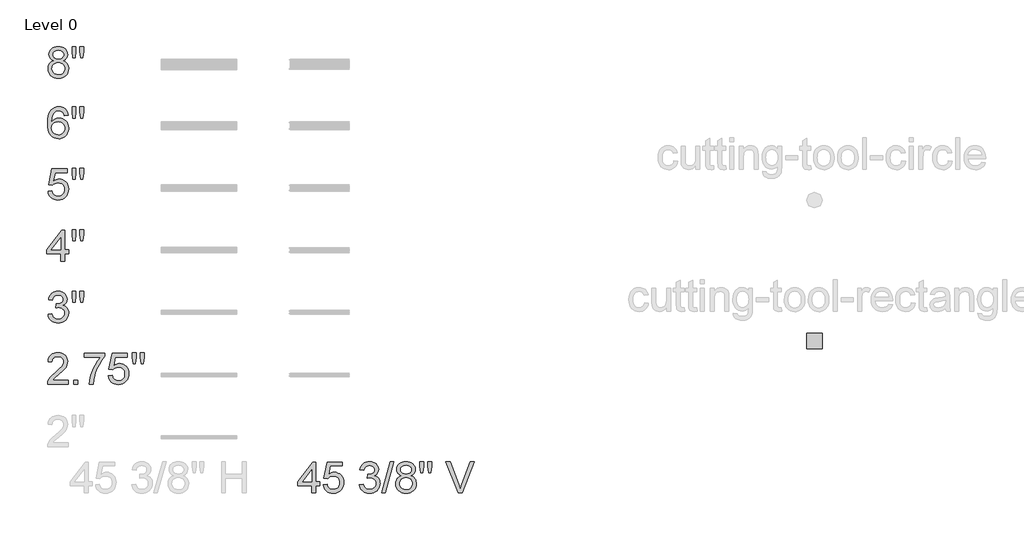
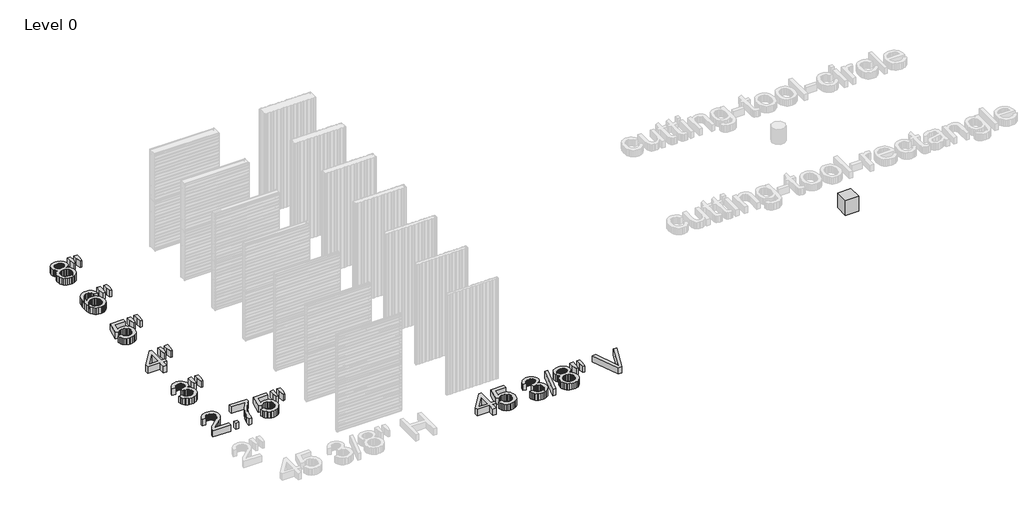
# One storey, part 2 of 4: 8 proxies.
"""IFC4 building model written with IfcOpenShell, lengths in millimetres."""

from ifc_helpers import new_model, si_unit, origin, origin_with_axes, place, context, project, spatial, polyline, outline, extrude, transform, mapped, element, save
from components import kingspan_ks_cutting_tool_rectangle_cutting_tool_rectangle_f435e5aa

model = new_model("IFC4")

# Units and contexts
model_context = context("Model", 3, world=origin())
ifc_project = project(units=[si_unit("LENGTHUNIT", "METRE", prefix="MILLI")], contexts=[model_context])

# Site, building, storey
site = spatial("IfcSite", under=ifc_project)
building = spatial("IfcBuilding", under=site)
storey = spatial("IfcBuildingStorey", under=building, Name="Level 0", Elevation=0.0)

# Proxies
placement = place(None, origin())
element("IfcBuildingElementProxy", 1, Name="24\" Arial", ObjectType="24\" Arial", at=placement, inside=storey, context=model_context, shape_type="SweptSolid", body=[
    extrude(outline(polyline([(-10988.6802578, 8306.6494842), (-10988.6802578, 8230.5077107), (-11388.4245688, 8230.5077107), (-11386.7515317, 8257.3134815), (-11380.2452767, 8283.0038944), (-11361.4700835, 8324.0304798), (-11333.9950978, 8363.8301715), (-11294.2511741, 8405.4887932), (-11238.6691665, 8452.0921687), (-11156.5044598, 8525.0737612), (-11107.2056357, 8578.9455531), (-11092.826812, 8600.9552845), (-11082.5562237, 8622.6675872), (-11076.3938707, 8644.082461), (-11074.339753, 8665.199906), (-11076.2776875, 8685.0672205), (-11082.0914912, 8703.3265606), (-11091.7811639, 8719.9779262), (-11105.3467057, 8735.0213174), (-11122.0352499, 8747.4807959), (-11141.0939299, 8756.3804233), (-11162.5227457, 8761.7201998), (-11186.3216973, 8763.5001253), (-11211.3940159, 8761.7620257), (-11233.8173592, 8756.547727), (-11253.5917273, 8747.8572292), (-11270.7171201, 8735.6905322), (-11284.570796, 8720.4566007), (-11294.5300136, 8702.5643993), (-11300.5947728, 8682.013928), (-11302.7650736, 8658.8051867), (-11378.9068471, 8668.3229084), (-11372.3587661, 8707.6299836), (-11360.447672, 8741.9737157), (-11343.1735648, 8771.3541046), (-11320.5364445, 8795.7711504), (-11293.0568115, 8814.9646028), (-11261.2551663, 8828.6742117), (-11225.1315087, 8836.899977), (-11184.6858388, 8839.6418988), (-11143.8776776, 8836.5932536), (-11107.5588324, 8827.4473179), (-11075.7293032, 8812.2040917), (-11048.38909, 8790.8635751), (-11026.4304791, 8765.0058586), (-11010.7457571, 8736.2110326), (-11001.3349239, 8704.4790972), (-10998.1979795, 8669.8100524), (-11001.5812321, 8633.3936134), (-11011.73099, 8597.6092105), (-11029.7440219, 8561.2113608), (-11056.7170964, 8522.954581), (-11099.7141477, 8477.2806705), (-11165.7991099, 8418.6314284), (-11253.3918923, 8345.3895857), (-11287.744919, 8306.6494842), (-10988.6802578, 8306.6494842)])), origin_with_axes(), (0.0, 0.0, 1.0), 152.4),
    extrude(outline(polyline([(-10874.4675975, 8230.5077107), (-10874.4675975, 8306.6494842), (-10798.325824, 8306.6494842), (-10798.325824, 8230.5077107), (-10874.4675975, 8230.5077107)])), origin_with_axes(), (0.0, 0.0, 1.0), 152.4),
    extrude(outline(polyline([(-10674.595442, 8753.9824036), (-10674.595442, 8830.1241771), (-10274.8511311, 8830.1241771), (-10274.8511311, 8768.5564149), (-10331.8273361, 8696.4485195), (-10388.2458621, 8604.7475018), (-10414.7216729, 8553.6408683), (-10438.0094187, 8501.8185467), (-10458.1090995, 8449.2805371), (-10475.0207154, 8396.0268394), (-10493.1638723, 8316.8735993), (-10503.2764516, 8230.5077107), (-10579.4182251, 8230.5077107), (-10571.1831652, 8308.991736), (-10549.1548445, 8402.2728443), (-10533.1169257, 8452.1618786), (-10513.9281206, 8501.1493319), (-10491.5884291, 8549.2352041), (-10466.0978513, 8596.4194953), (-10410.2555935, 8682.543723), (-10350.9929046, 8753.9824036), (-10674.595442, 8753.9824036)])), origin_with_axes(), (0.0, 0.0, 1.0), 152.4),
    extrude(outline(polyline([(-10208.2270792, 8392.3089794), (-10132.0853057, 8401.8267011), (-10126.3969799, 8377.3492401), (-10118.106152, 8356.1156119), (-10107.2128221, 8338.1258167), (-10093.7169902, 8323.3798543), (-10077.6465402, 8311.8963142), (-10059.029356, 8303.6937854), (-10037.8654378, 8298.7722682), (-10014.1547854, 8297.1317625), (-9985.1554771, 8299.4135991), (-9959.5766001, 8306.2591089), (-9937.4181543, 8317.6682919), (-9918.6801397, 8333.641148), (-9903.7808156, 8353.3876321), (-9893.1384413, 8376.1176989), (-9886.7530167, 8401.8313484), (-9884.6245418, 8430.5285805), (-9886.6182442, 8457.6503695), (-9892.5993516, 8481.7606918), (-9902.5678638, 8502.8595475), (-9916.5237809, 8520.9469366), (-9934.5135761, 8535.4558854), (-9956.5837228, 8545.8194202), (-9982.7342208, 8552.0375411), (-10012.9650702, 8554.1102481), (-10049.9020097, 8550.8013527), (-10079.8121936, 8540.8746664), (-10103.6994444, 8525.6686188), (-10122.567584, 8506.5216397), (-10198.7093576, 8516.0393613), (-10132.0853057, 8830.1241771), (-9837.0359333, 8830.1241771), (-9837.0359333, 8753.9824036), (-10070.5175435, 8753.9824036), (-10103.0859975, 8586.2325588), (-10076.2151641, 8605.4910738), (-10048.6937051, 8619.2471559), (-10020.5216207, 8627.5008052), (-9991.6989108, 8630.2520216), (-9954.6179043, 8626.840885), (-9920.557659, 8616.6074753), (-9889.5181751, 8599.5517924), (-9861.4994524, 8575.6738363), (-9838.3046531, 8546.4328671), (-9821.7369393, 8513.2881449), (-9811.796311, 8476.2396697), (-9808.4827683, 8435.2874414), (-9811.466351, 8395.8409464), (-9820.417099, 8359.1456679), (-9835.3350124, 8325.2016058), (-9856.2200911, 8294.0087601), (-9887.85908, 8262.0630477), (-9924.7774302, 8239.2446817), (-9966.9751416, 8225.5536622), (-10014.4522142, 8220.989989), (-10053.7453475, 8223.9224511), (-10089.2369688, 8232.7198374), (-10120.9270783, 8247.3821479), (-10148.8156759, 8267.9093826), (-10172.0197698, 8293.27913), (-10189.6563684, 8322.4689786), (-10201.7254715, 8355.4789284), (-10208.2270792, 8392.3089794)])), origin_with_axes(), (0.0, 0.0, 1.0), 152.4),
    extrude(outline(polyline([(-9723.2694163, 8620.7342999), (-9741.8587165, 8738.3673914), (-9741.8587165, 8839.6418988), (-9665.7169429, 8839.6418988), (-9665.7169429, 8738.3673914), (-9682.3729559, 8620.7342999), (-9723.2694163, 8620.7342999)])), origin_with_axes(), (0.0, 0.0, 1.0), 152.4),
    extrude(outline(polyline([(-9571.4320124, 8620.7342999), (-9589.5751694, 8738.3673914), (-9589.5751694, 8839.6418988), (-9513.4333959, 8839.6418988), (-9513.4333959, 8738.3673914), (-9531.2791241, 8620.7342999), (-9571.4320124, 8620.7342999)])), origin_with_axes(), (0.0, 0.0, 1.0), 152.4),
])
element("IfcBuildingElementProxy", 2, Name="24\" Arial", ObjectType="24\" Arial", at=placement, inside=storey, context=model_context, shape_type="SweptSolid", body=[
    extrude(outline(polyline([(-11378.9068471, 9586.1089794), (-11302.7650736, 9595.6267011), (-11285.7186853, 9547.7778424), (-11274.2258505, 9529.6811587), (-11260.7532552, 9515.4696387), (-11244.9941759, 9504.7343179), (-11226.6418893, 9497.0662315), (-11205.6963954, 9492.4653798), (-11182.157694, 9490.9317625), (-11154.5711726, 9493.0416481), (-11129.9589391, 9499.3713048), (-11108.3209937, 9509.9207326), (-11089.6573363, 9524.6899316), (-11074.6278872, 9542.5728384), (-11063.8925663, 9562.4633896), (-11057.4513738, 9584.3615852), (-11055.3043096, 9608.2674252), (-11057.4327845, 9631.0346706), (-11063.8182091, 9651.7477983), (-11074.4605835, 9670.4068084), (-11089.3599075, 9687.0117007), (-11107.5402431, 9700.6423051), (-11128.0256519, 9710.3784511), (-11150.8161339, 9716.2201386), (-11175.9116892, 9718.1673678), (-11199.9662436, 9716.0853662), (-11229.3001593, 9709.8393613), (-11220.8234384, 9785.9811349), (-11208.6288575, 9785.0888485), (-11163.0107148, 9790.5541027), (-11122.2257903, 9806.9498655), (-11105.4396522, 9819.3489287), (-11093.4495536, 9834.6851013), (-11086.2554944, 9852.9583834), (-11083.8574747, 9874.1687749), (-11085.5955743, 9891.3871142), (-11090.809873, 9907.0532469), (-11099.5003708, 9921.1671731), (-11111.6670678, 9933.7288927), (-11126.5756865, 9944.0413069), (-11143.4919497, 9951.4073171), (-11162.4158572, 9955.8269232), (-11183.3474092, 9957.3001253), (-11204.2231933, 9955.8129813), (-11223.277226, 9951.3515492), (-11240.5095073, 9943.9158292), (-11255.9200371, 9933.5058211), (-11269.1277349, 9920.1215249), (-11279.7515199, 9903.7629408), (-11287.7913923, 9884.4300686), (-11293.2473519, 9862.1229084), (-11369.3891254, 9871.6406301), (-11360.3640201, 9907.9920066), (-11346.9704294, 9940.0120761), (-11329.2083531, 9967.7008387), (-11307.0777912, 9991.0582944), (-11281.2758426, 10009.6011213), (-11252.4996059, 10022.8459977), (-11220.7490812, 10030.7929235), (-11186.0242685, 10033.4418988), (-11138.1568205, 10028.2183054), (-11094.1931256, 10012.5475254), (-11057.126061, 9987.8237562), (-11029.9485042, 9955.4411953), (-11013.2739019, 9918.1324698), (-11007.7157012, 9878.6302069), (-11012.9950624, 9841.8233926), (-11028.8331462, 9808.4370095), (-11055.0068808, 9779.9953802), (-11091.2931948, 9758.0228274), (-11065.9188, 9750.0851962), (-11043.6302291, 9738.7643124), (-11024.427482, 9724.060176), (-11008.3105588, 9705.9727869), (-10995.5582989, 9684.9482884), (-10986.4495418, 9661.4328237), (-10980.9842875, 9635.4263927), (-10979.1625361, 9606.9289956), (-10982.8060389, 9568.3004298), (-10993.7365474, 9532.7205093), (-11011.9540616, 9500.189234), (-11037.4585815, 9470.7066039), (-11068.5305967, 9446.2430849), (-11103.4505971, 9428.7691427), (-11142.2185826, 9418.2847774), (-11184.8345532, 9414.789989), (-11223.3515832, 9417.7735716), (-11258.4481819, 9426.7243197), (-11290.1243494, 9441.6422331), (-11318.3800857, 9462.5273118), (-11342.0721488, 9488.1526621), (-11360.0572967, 9517.2913901), (-11372.3355295, 9549.9434959), (-11378.9068471, 9586.1089794)])), origin_with_axes(), (0.0, 0.0, 1.0), 152.4),
    extrude(outline(polyline([(-10893.9491841, 9814.5342999), (-10912.5384843, 9932.1673914), (-10912.5384843, 10033.4418988), (-10836.3967108, 10033.4418988), (-10836.3967108, 9932.1673914), (-10853.0527237, 9814.5342999), (-10893.9491841, 9814.5342999)])), origin_with_axes(), (0.0, 0.0, 1.0), 152.4),
    extrude(outline(polyline([(-10742.1117803, 9814.5342999), (-10760.2549372, 9932.1673914), (-10760.2549372, 10033.4418988), (-10684.1131637, 10033.4418988), (-10684.1131637, 9932.1673914), (-10701.9588919, 9814.5342999), (-10742.1117803, 9814.5342999)])), origin_with_axes(), (0.0, 0.0, 1.0), 152.4),
])
element("IfcBuildingElementProxy", 3, Name="24\" Arial", ObjectType="24\" Arial", at=placement, inside=storey, context=model_context, shape_type="SweptSolid", body=[
    extrude(outline(polyline([(-11131.4460831, 10618.1077107), (-11131.4460831, 10760.873536), (-11407.4600121, 10760.873536), (-11407.4600121, 10837.0153095), (-11112.4106398, 11217.7241771), (-11055.3043096, 11217.7241771), (-11055.3043096, 10837.0153095), (-10979.1625361, 10837.0153095), (-10979.1625361, 10760.873536), (-11055.3043096, 10760.873536), (-11055.3043096, 10618.1077107), (-11131.4460831, 10618.1077107)]), holes=[polyline([(-11131.4460831, 10837.0153095), (-11131.4460831, 11072.2814925), (-11313.7699393, 10837.0153095), (-11131.4460831, 10837.0153095)])]), origin_with_axes(), (0.0, 0.0, 1.0), 152.4),
    extrude(outline(polyline([(-10893.9491841, 11008.3342999), (-10912.5384843, 11125.9673914), (-10912.5384843, 11227.2418988), (-10836.3967108, 11227.2418988), (-10836.3967108, 11125.9673914), (-10853.0527237, 11008.3342999), (-10893.9491841, 11008.3342999)])), origin_with_axes(), (0.0, 0.0, 1.0), 152.4),
    extrude(outline(polyline([(-10742.1117803, 11008.3342999), (-10760.2549372, 11125.9673914), (-10760.2549372, 11227.2418988), (-10684.1131637, 11227.2418988), (-10684.1131637, 11125.9673914), (-10701.9588919, 11008.3342999), (-10742.1117803, 11008.3342999)])), origin_with_axes(), (0.0, 0.0, 1.0), 152.4),
])
element("IfcBuildingElementProxy", 4, Name="24\" Arial", ObjectType="24\" Arial", at=placement, inside=storey, context=model_context, shape_type="SweptSolid", body=[
    extrude(outline(polyline([(-6256.0892581, 6117.5207326), (-6256.0892581, 6260.2865579), (-6532.1031871, 6260.2865579), (-6532.1031871, 6336.4283314), (-6237.0538147, 6717.137199), (-6179.9474846, 6717.137199), (-6179.9474846, 6336.4283314), (-6103.8057111, 6336.4283314), (-6103.8057111, 6260.2865579), (-6179.9474846, 6260.2865579), (-6179.9474846, 6117.5207326), (-6256.0892581, 6117.5207326)]), holes=[polyline([(-6256.0892581, 6336.4283314), (-6256.0892581, 6571.6945144), (-6438.4131142, 6336.4283314), (-6256.0892581, 6336.4283314)])]), origin_with_axes(), (0.0, 0.0, 1.0), 152.4),
    extrude(outline(polyline([(-6037.1816593, 6279.3220013), (-5961.0398857, 6288.839723), (-5955.3515599, 6264.362262), (-5947.060732, 6243.1286338), (-5936.1674021, 6225.1388386), (-5922.6715702, 6210.3928762), (-5906.6011202, 6198.909336), (-5887.9839361, 6190.7068073), (-5866.8200178, 6185.7852901), (-5843.1093654, 6184.1447844), (-5814.1100572, 6186.426621), (-5788.5311801, 6193.2721308), (-5766.3727343, 6204.6813138), (-5747.6347197, 6220.6541699), (-5732.7353956, 6240.400654), (-5722.0930213, 6263.1307208), (-5715.7075967, 6288.8443703), (-5713.5791218, 6317.5416024), (-5715.5728243, 6344.6633914), (-5721.5539316, 6368.7737137), (-5731.5224438, 6389.8725694), (-5745.4783609, 6407.9599585), (-5763.4681562, 6422.4689073), (-5785.5383028, 6432.8324421), (-5811.6888008, 6439.050563), (-5841.9196502, 6441.12327), (-5878.8565897, 6437.8143746), (-5908.7667737, 6427.8876883), (-5932.6540244, 6412.6816407), (-5951.5221641, 6393.5346616), (-6027.6639376, 6403.0523832), (-5961.0398857, 6717.137199), (-5665.9905134, 6717.137199), (-5665.9905134, 6640.9954255), (-5899.4721236, 6640.9954255), (-5932.0405775, 6473.2455807), (-5905.1697441, 6492.5040957), (-5877.6482852, 6506.2601778), (-5849.4762007, 6514.5138271), (-5820.6534908, 6517.2650435), (-5783.5724843, 6513.8539069), (-5749.5122391, 6503.6204972), (-5718.4727551, 6486.5648143), (-5690.4540324, 6462.6868582), (-5667.2592331, 6433.445889), (-5650.6915193, 6400.3011668), (-5640.7508911, 6363.2526916), (-5637.4373483, 6322.3004633), (-5640.420931, 6282.8539683), (-5649.371679, 6246.1586898), (-5664.2895924, 6212.2146276), (-5685.1746712, 6181.021782), (-5716.81366, 6149.0760696), (-5753.7320102, 6126.2577036), (-5795.9297216, 6112.5666841), (-5843.4067942, 6108.0030109), (-5882.6999275, 6110.935473), (-5918.1915488, 6119.7328593), (-5949.8816583, 6134.3951698), (-5977.7702559, 6154.9224045), (-6000.9743499, 6180.2921519), (-6018.6109484, 6209.4820005), (-6030.6800515, 6242.4919503), (-6037.1816593, 6279.3220013)])), origin_with_axes(), (0.0, 0.0, 1.0), 152.4),
    extrude(outline(polyline([(-5332.8702542, 6279.3220013), (-5256.7284807, 6288.839723), (-5239.6820925, 6240.9908643), (-5228.1892576, 6222.8941806), (-5214.7166623, 6208.6826606), (-5198.9575831, 6197.9473398), (-5180.6052965, 6190.2792534), (-5159.6598025, 6185.6784016), (-5136.1211012, 6184.1447844), (-5108.5345797, 6186.25467), (-5083.9223463, 6192.5843267), (-5062.2844009, 6203.1337545), (-5043.6207435, 6217.9029535), (-5028.5912943, 6235.7858603), (-5017.8559735, 6255.6764115), (-5011.414781, 6277.5746071), (-5009.2677168, 6301.4804471), (-5011.3961917, 6324.2476925), (-5017.7816163, 6344.9608202), (-5028.4239906, 6363.6198302), (-5043.3233147, 6380.2247226), (-5061.5036503, 6393.855327), (-5081.9890591, 6403.5914729), (-5104.7795411, 6409.4331605), (-5129.8750963, 6411.3803897), (-5153.9296507, 6409.2983881), (-5183.2635664, 6403.0523832), (-5174.7868455, 6479.1941568), (-5162.5922646, 6478.3018704), (-5116.974122, 6483.7671246), (-5076.1891974, 6500.1628874), (-5059.4030594, 6512.5619506), (-5047.4129607, 6527.8981232), (-5040.2189016, 6546.1714053), (-5037.8208819, 6567.3817968), (-5039.5589814, 6584.6001361), (-5044.7732801, 6600.2662688), (-5053.463778, 6614.380195), (-5065.6304749, 6626.9419146), (-5080.5390937, 6637.2543288), (-5097.4553568, 6644.620339), (-5116.3792644, 6649.0399451), (-5137.3108164, 6650.5131472), (-5158.1866005, 6649.0260032), (-5177.2406332, 6644.5645711), (-5194.4729144, 6637.128851), (-5209.8834443, 6626.718843), (-5223.0911421, 6613.3345468), (-5233.7149271, 6596.9759627), (-5241.7547994, 6577.6430905), (-5247.210759, 6555.3359303), (-5323.3525325, 6564.853652), (-5314.3274273, 6601.2050285), (-5300.9338365, 6633.225098), (-5283.1717602, 6660.9138606), (-5261.0411984, 6684.2713163), (-5235.2392497, 6702.8141432), (-5206.463013, 6716.0590196), (-5174.7124883, 6724.0059454), (-5139.9876756, 6726.6549207), (-5092.1202277, 6721.4313273), (-5048.1565328, 6705.7605473), (-5011.0894682, 6681.0367781), (-4983.9119113, 6648.6542172), (-4967.2373091, 6611.3454917), (-4961.6791083, 6571.8432288), (-4966.9584696, 6535.0364145), (-4982.7965533, 6501.6500314), (-5008.970288, 6473.2084021), (-5045.2566019, 6451.2358493), (-5019.8822072, 6443.2982181), (-4997.5936363, 6431.9773343), (-4978.3908892, 6417.2731979), (-4962.2739659, 6399.1858088), (-4949.521706, 6378.1613103), (-4940.4129489, 6354.6458456), (-4934.9476947, 6328.6394146), (-4933.1259433, 6300.1420175), (-4936.7694461, 6261.5134517), (-4947.6999546, 6225.9335312), (-4965.9174688, 6193.4022559), (-4991.4219886, 6163.9196258), (-5022.4940039, 6139.4561068), (-5057.4140042, 6121.9821646), (-5096.1819898, 6111.4977993), (-5138.7979604, 6108.0030109), (-5177.3149904, 6110.9865935), (-5212.4115891, 6119.9373416), (-5244.0877566, 6134.855255), (-5272.3434929, 6155.7403337), (-5296.0355559, 6181.365684), (-5314.0207039, 6210.504412), (-5326.2989366, 6243.1565178), (-5332.8702542, 6279.3220013)])), origin_with_axes(), (0.0, 0.0, 1.0), 152.4),
    extrude(outline(polyline([(-4904.5727782, 6117.5207326), (-4733.2537878, 6726.6549207), (-4664.5477343, 6726.6549207), (-4835.8667248, 6117.5207326), (-4904.5727782, 6117.5207326)])), origin_with_axes(), (0.0, 0.0, 1.0), 152.4),
    extrude(outline(polyline([(-4517.6179058, 6453.0204221), (-4558.384241, 6473.0968663), (-4574.2083828, 6485.8119476), (-4586.993174, 6500.3116018), (-4596.8501504, 6516.456409), (-4603.8908479, 6534.1069495), (-4609.5234058, 6573.9252305), (-4606.4561713, 6604.9786564), (-4597.2544677, 6633.4481696), (-4581.9182951, 6659.3337701), (-4560.4476534, 6682.6354579), (-4533.8742488, 6701.8939729), (-4503.2297874, 6715.650055), (-4468.5142693, 6723.9037043), (-4429.7276945, 6726.6549207), (-4390.7552267, 6723.8386417), (-4355.7794584, 6715.3898048), (-4324.8003897, 6701.3084099), (-4297.8180205, 6681.5944571), (-4275.9570035, 6657.8373314), (-4260.3419913, 6631.6264182), (-4250.972984, 6602.9617173), (-4247.8499816, 6571.8432288), (-4253.4081824, 6533.3076096), (-4270.0827846, 6500.0885302), (-4282.6352096, 6485.6864698), (-4298.0596814, 6473.0410984), (-4337.5247657, 6453.0204221), (-4312.4989203, 6442.3734004), (-4290.6611399, 6428.8729212), (-4272.0114245, 6412.5189844), (-4256.5497741, 6393.31159), (-4244.4156084, 6371.6782919), (-4235.7483472, 6348.046644), (-4230.5479905, 6322.4166464), (-4228.8145382, 6294.788299), (-4232.2535588, 6256.8103588), (-4242.5706204, 6221.9925995), (-4259.765723, 6190.3350213), (-4283.8388668, 6161.8376242), (-4313.5259791, 6138.2849809), (-4347.5629878, 6121.4616642), (-4385.9498926, 6111.3676742), (-4428.6866937, 6108.0030109), (-4471.4234948, 6111.3816162), (-4509.8103997, 6121.5174321), (-4543.8474083, 6138.4104586), (-4573.5345207, 6162.0606958), (-4597.6076644, 6190.7579279), (-4614.8027671, 6222.7919394), (-4625.1198287, 6258.1627304), (-4628.5588492, 6296.8703006), (-4626.7556871, 6325.7580731), (-4621.3462007, 6352.192058), (-4612.3303901, 6376.1722552), (-4599.7082553, 6397.6986648), (-4583.7586358, 6416.3809115), (-4564.760371, 6431.8286199), (-4542.713461, 6444.0417901), (-4517.6179058, 6453.0204221)]), holes=[polyline([(-4533.3816323, 6571.6945144), (-4531.6946533, 6554.2391616), (-4526.6337163, 6538.4568457), (-4518.1988214, 6524.3475669), (-4506.3899685, 6511.9113251), (-4491.3558719, 6501.7615672), (-4473.2452462, 6494.5117401), (-4452.0580914, 6490.1618439), (-4427.7944073, 6488.7118785), (-4404.1302282, 6490.1525492), (-4383.4031585, 6494.4745615), (-4365.6131982, 6501.6779153), (-4350.7603474, 6511.7626107), (-4339.0490883, 6523.9386023), (-4330.6839032, 6537.4158449), (-4325.6647921, 6552.1943385), (-4323.9917551, 6568.2740832), (-4325.72056, 6584.9812167), (-4330.9069748, 6600.3034474), (-4339.5509994, 6614.2407752), (-4351.6526338, 6626.7932002), (-4366.840092, 6637.170677), (-4384.7415881, 6644.5831604), (-4405.357122, 6649.0306505), (-4428.6866937, 6650.5131472), (-4452.1975111, 6649.0631818), (-4472.9106388, 6644.7132855), (-4490.8260769, 6637.4634585), (-4505.9438252, 6627.3137006), (-4517.9478658, 6615.1377089), (-4526.5221805, 6601.8091807), (-4531.6667694, 6587.3281159), (-4533.3816323, 6571.6945144)]), polyline([(-4552.4170757, 6299.5471599), (-4549.2383054, 6270.4177265), (-4539.7019944, 6242.2177581), (-4522.0979271, 6217.624114), (-4494.7158879, 6199.3136533), (-4461.9243624, 6187.9370016), (-4428.0918361, 6184.1447844), (-4400.5610826, 6186.1384868), (-4376.2648672, 6192.1195942), (-4355.2031901, 6202.0881064), (-4337.3760513, 6216.0440235), (-4323.1924152, 6233.0764698), (-4313.0612466, 6252.2745695), (-4306.9825455, 6273.6383228), (-4304.9563118, 6297.1677294), (-4307.047608, 6321.0735695), (-4313.3214968, 6342.8230507), (-4323.7779782, 6362.4161731), (-4338.4170521, 6379.8529366), (-4356.7275127, 6394.1666978), (-4378.1981544, 6404.3908129), (-4402.8289772, 6410.5252819), (-4430.6199809, 6412.5701049), (-4457.7464172, 6410.5531659), (-4481.7219671, 6404.5023487), (-4502.5466306, 6394.4176533), (-4520.2204078, 6380.2990798), (-4534.30645, 6363.1504504), (-4544.3679087, 6343.9755873), (-4550.4047839, 6322.7744904), (-4552.4170757, 6299.5471599)])]), origin_with_axes(), (0.0, 0.0, 1.0), 152.4),
    extrude(outline(polyline([(-4143.6011862, 6507.7473218), (-4162.1904864, 6625.3804133), (-4162.1904864, 6726.6549207), (-4086.0487129, 6726.6549207), (-4086.0487129, 6625.3804133), (-4102.7047258, 6507.7473218), (-4143.6011862, 6507.7473218)])), origin_with_axes(), (0.0, 0.0, 1.0), 152.4),
    extrude(outline(polyline([(-3991.7637824, 6507.7473218), (-4009.9069394, 6625.3804133), (-4009.9069394, 6726.6549207), (-3933.7651659, 6726.6549207), (-3933.7651659, 6625.3804133), (-3951.610894, 6507.7473218), (-3991.7637824, 6507.7473218)])), origin_with_axes(), (0.0, 0.0, 1.0), 152.4),
    extrude(outline(polyline([(-3411.1827593, 6117.5207326), (-3653.5872336, 6726.6549207), (-3572.0917417, 6726.6549207), (-3409.8443297, 6287.7987222), (-3376.978447, 6188.9036452), (-3344.5587075, 6287.7987222), (-3181.8651524, 6726.6549207), (-3100.3696604, 6726.6549207), (-3332.512841, 6117.5207326), (-3411.1827593, 6117.5207326)])), origin_with_axes(), (0.0, 0.0, 1.0), 152.4),
])
element("IfcBuildingElementProxy", 5, Name="24\" Arial", ObjectType="24\" Arial", at=placement, inside=storey, context=model_context, shape_type="SweptSolid", body=[
    extrude(outline(polyline([(-11378.9068471, 11973.7089794), (-11302.7650736, 11983.2267011), (-11297.0767477, 11958.7492401), (-11288.7859198, 11937.5156119), (-11277.8925899, 11919.5258167), (-11264.396758, 11904.7798543), (-11248.326308, 11893.2963142), (-11229.7091239, 11885.0937854), (-11208.5452056, 11880.1722682), (-11184.8345532, 11878.5317625), (-11155.835245, 11880.8135991), (-11130.2563679, 11887.6591089), (-11108.0979221, 11899.0682919), (-11089.3599075, 11915.041148), (-11074.4605835, 11934.7876321), (-11063.8182091, 11957.5176989), (-11057.4327845, 11983.2313484), (-11055.3043096, 12011.9285805), (-11057.2980121, 12039.0503695), (-11063.2791194, 12063.1606918), (-11073.2476316, 12084.2595475), (-11087.2035487, 12102.3469366), (-11105.193344, 12116.8558854), (-11127.2634906, 12127.2194202), (-11153.4139886, 12133.4375411), (-11183.644838, 12135.5102481), (-11220.5817775, 12132.2013527), (-11250.4919615, 12122.2746664), (-11274.3792122, 12107.0686188), (-11293.2473519, 12087.9216397), (-11369.3891254, 12097.4393613), (-11302.7650736, 12411.5241771), (-11007.7157012, 12411.5241771), (-11007.7157012, 12335.3824036), (-11241.1973114, 12335.3824036), (-11273.7657653, 12167.6325588), (-11246.8949319, 12186.8910738), (-11219.373473, 12200.6471559), (-11191.2013886, 12208.9008052), (-11162.3786786, 12211.6520216), (-11125.2976721, 12208.240885), (-11091.2374269, 12198.0074753), (-11060.1979429, 12180.9517924), (-11032.1792202, 12157.0738363), (-11008.9844209, 12127.8328671), (-10992.4167071, 12094.6881449), (-10982.4760789, 12057.6396697), (-10979.1625361, 12016.6874414), (-10982.1461188, 11977.2409464), (-10991.0968668, 11940.5456679), (-11006.0147802, 11906.6016058), (-11026.899859, 11875.4087601), (-11058.5388479, 11843.4630477), (-11095.457198, 11820.6446817), (-11137.6549094, 11806.9536622), (-11185.131982, 11802.389989), (-11224.4251153, 11805.3224511), (-11259.9167366, 11814.1198374), (-11291.6068461, 11828.7821479), (-11319.4954437, 11849.3093826), (-11342.6995377, 11874.67913), (-11360.3361362, 11903.8689786), (-11372.4052393, 11936.8789284), (-11378.9068471, 11973.7089794)])), origin_with_axes(), (0.0, 0.0, 1.0), 152.4),
    extrude(outline(polyline([(-10893.9491841, 12202.1342999), (-10912.5384843, 12319.7673914), (-10912.5384843, 12421.0418988), (-10836.3967108, 12421.0418988), (-10836.3967108, 12319.7673914), (-10853.0527237, 12202.1342999), (-10893.9491841, 12202.1342999)])), origin_with_axes(), (0.0, 0.0, 1.0), 152.4),
    extrude(outline(polyline([(-10742.1117803, 12202.1342999), (-10760.2549372, 12319.7673914), (-10760.2549372, 12421.0418988), (-10684.1131637, 12421.0418988), (-10684.1131637, 12319.7673914), (-10701.9588919, 12202.1342999), (-10742.1117803, 12202.1342999)])), origin_with_axes(), (0.0, 0.0, 1.0), 152.4),
])
element("IfcBuildingElementProxy", 6, Name="24\" Arial", ObjectType="24\" Arial", at=placement, inside=storey, context=model_context, shape_type="SweptSolid", body=[
    extrude(outline(polyline([(-10988.6802578, 13452.6390565), (-11064.8220313, 13443.1213348), (-11077.0909694, 13480.8576142), (-11093.6726252, 13506.6223842), (-11110.040504, 13520.4807075), (-11128.2115449, 13530.3795098), (-11148.1857479, 13536.3187912), (-11169.9631131, 13538.2985517), (-11205.3571406, 13533.6884053), (-11238.6691665, 13519.8579659), (-11267.2780995, 13490.7285326), (-11290.6448498, 13450.6314121), (-11299.7768436, 13425.0571824), (-11306.4271657, 13393.9154573), (-11312.2827952, 13314.9295208), (-11281.7405751, 13350.5652092), (-11245.138243, 13375.6793538), (-11204.5206221, 13390.5693832), (-11161.9325354, 13395.5327264), (-11125.3487927, 13392.1401791), (-11091.5906236, 13381.9625372), (-11060.6580281, 13364.9998008), (-11032.5510062, 13341.2519699), (-11009.1935505, 13312.1318311), (-10992.5096536, 13279.0521715), (-10982.4993155, 13242.0129909), (-10979.1625361, 13201.0142893), (-10980.733332, 13173.2558168), (-10985.4457196, 13146.4918719), (-10993.2996989, 13120.7224546), (-11004.2952699, 13095.9475647), (-11018.0420574, 13073.0920202), (-11034.149686, 13053.0806385), (-11052.6181557, 13035.9134198), (-11073.4474666, 13021.590364), (-11096.1914754, 13010.3020115), (-11120.4040388, 13002.2389026), (-11146.085157, 12997.4010372), (-11173.2348299, 12995.7884154), (-11218.6252536, 13000.0639544), (-11259.6193078, 13012.8905716), (-11296.2169926, 13034.2682668), (-11328.4183078, 13064.19704), (-11354.671047, 13103.9409638), (-11373.4230035, 13154.7641105), (-11384.6741774, 13216.6664801), (-11388.4245688, 13289.6480726), (-11384.2605655, 13371.4688773), (-11371.7685558, 13441.2995834), (-11350.9485396, 13499.1401909), (-11337.4155291, 13523.5642077), (-11321.8005169, 13544.9906998), (-11290.2080013, 13575.3749109), (-11253.5777853, 13597.0779189), (-11211.9098689, 13610.0997236), (-11165.2042523, 13614.4403252), (-11130.1355375, 13611.7541714), (-11098.3943074, 13603.6957097), (-11069.9805621, 13590.2649404), (-11044.8943015, 13571.4618632), (-11023.8140351, 13547.9185146), (-11007.4182724, 13520.2669305), (-10995.7070133, 13488.5071112), (-10988.6802578, 13452.6390565)]), holes=[polyline([(-11312.2827952, 13202.2040045), (-11307.8771311, 13168.4644247), (-11294.6601387, 13136.2491675), (-11274.1375513, 13108.5511103), (-11247.8151022, 13088.3631303), (-11216.0459882, 13076.0384243), (-11179.183406, 13071.9301889), (-11152.7168899, 13074.0586638), (-11128.9365276, 13080.4440884), (-11107.8423192, 13091.0864627), (-11089.4342647, 13105.9857868), (-11074.5024094, 13124.5379084), (-11063.8367984, 13146.1386752), (-11057.4374318, 13170.7880872), (-11055.3043096, 13198.4861445), (-11057.4095479, 13225.101375), (-11063.7252626, 13248.7330229), (-11074.2514538, 13269.3810881), (-11088.9881215, 13287.0455705), (-11107.4519439, 13301.1966753), (-11129.1595992, 13311.3046073), (-11154.1110874, 13317.3693665), (-11182.3064084, 13319.3909528), (-11208.4197278, 13317.3693665), (-11232.4789296, 13311.3046073), (-11254.4840137, 13301.1966753), (-11274.4349801, 13287.0455705), (-11290.9933992, 13269.6134543), (-11302.8208415, 13249.6624879), (-11309.9173068, 13227.1926713), (-11312.2827952, 13202.2040045)])]), origin_with_axes(), (0.0, 0.0, 1.0), 152.4),
    extrude(outline(polyline([(-10893.9491841, 13395.5327264), (-10912.5384843, 13513.1658179), (-10912.5384843, 13614.4403252), (-10836.3967108, 13614.4403252), (-10836.3967108, 13513.1658179), (-10853.0527237, 13395.5327264), (-10893.9491841, 13395.5327264)])), origin_with_axes(), (0.0, 0.0, 1.0), 152.4),
    extrude(outline(polyline([(-10742.1117803, 13395.5327264), (-10760.2549372, 13513.1658179), (-10760.2549372, 13614.4403252), (-10684.1131637, 13614.4403252), (-10684.1131637, 13513.1658179), (-10701.9588919, 13395.5327264), (-10742.1117803, 13395.5327264)])), origin_with_axes(), (0.0, 0.0, 1.0), 152.4),
])
element("IfcBuildingElementProxy", 7, Name="24\" Arial", ObjectType="24\" Arial", at=placement, inside=storey, context=model_context, shape_type="SweptSolid", body=[
    extrude(outline(polyline([(-11267.9659036, 14509.2058267), (-11308.7322389, 14529.2822708), (-11324.5563807, 14541.9973522), (-11337.3411719, 14556.4970063), (-11347.1981483, 14572.6418135), (-11354.2388457, 14590.292354), (-11359.8714037, 14630.110635), (-11356.8041692, 14661.1640609), (-11347.6024656, 14689.6335742), (-11332.2662929, 14715.5191746), (-11310.7956512, 14738.8208624), (-11284.2222466, 14758.0793774), (-11253.5777853, 14771.8354595), (-11218.8622672, 14780.0891088), (-11180.0756924, 14782.8403252), (-11141.1032246, 14780.0240463), (-11106.1274563, 14771.5752093), (-11075.1483876, 14757.4938144), (-11048.1660184, 14737.7798616), (-11026.3050013, 14714.022736), (-11010.6899892, 14687.8118227), (-11001.3209819, 14659.1471219), (-10998.1979795, 14628.0286334), (-11003.7561802, 14589.4930141), (-11020.4307825, 14556.2739347), (-11032.9832074, 14541.8718744), (-11048.4076793, 14529.2265029), (-11087.8727635, 14509.2058267), (-11062.8469182, 14498.558805), (-11041.0091378, 14485.0583257), (-11022.3594224, 14468.7043889), (-11006.897772, 14449.4969945), (-10994.7636063, 14427.8636964), (-10986.0963451, 14404.2320486), (-10980.8959883, 14378.6020509), (-10979.1625361, 14350.9737036), (-10982.6015566, 14312.9957633), (-10992.9186182, 14278.1780041), (-11010.1137209, 14246.5204259), (-11034.1868646, 14218.0230287), (-11063.873977, 14194.4703854), (-11097.9109856, 14177.6470687), (-11136.2978905, 14167.5530787), (-11179.0346916, 14164.1884154), (-11221.7714927, 14167.5670207), (-11260.1583976, 14177.7028366), (-11294.1954062, 14194.5958632), (-11323.8825186, 14218.2461003), (-11347.9556623, 14246.9433325), (-11365.1507649, 14278.977344), (-11375.4678265, 14314.3481349), (-11378.9068471, 14353.0557052), (-11377.103685, 14381.9434777), (-11371.6941986, 14408.3774625), (-11362.678388, 14432.3576597), (-11350.0562532, 14453.8840693), (-11334.1066336, 14472.566316), (-11315.1083689, 14488.0140245), (-11293.0614589, 14500.2271947), (-11267.9659036, 14509.2058267)]), holes=[polyline([(-11283.7296302, 14627.879919), (-11282.0426512, 14610.4245661), (-11276.9817142, 14594.6422503), (-11268.5468193, 14580.5329714), (-11256.7379663, 14568.0967296), (-11241.7038698, 14557.9469717), (-11223.5932441, 14550.6971446), (-11202.4060892, 14546.3472484), (-11178.1424052, 14544.897283), (-11154.4782261, 14546.3379538), (-11133.7511564, 14550.659966), (-11115.9611961, 14557.8633199), (-11101.1083453, 14567.9480152), (-11089.3970861, 14580.1240068), (-11081.0319011, 14593.6012494), (-11076.01279, 14608.3797431), (-11074.339753, 14624.4594877), (-11076.0685579, 14641.1666213), (-11081.2549727, 14656.4888519), (-11089.8989972, 14670.4261797), (-11102.0006317, 14682.9786047), (-11117.1880899, 14693.3560815), (-11135.089586, 14700.768565), (-11155.7051199, 14705.216055), (-11179.0346916, 14706.6985517), (-11202.545509, 14705.2485863), (-11223.2586367, 14700.8986901), (-11241.1740747, 14693.648863), (-11256.2918231, 14683.4991051), (-11268.2958637, 14671.3231135), (-11276.8701784, 14657.9945853), (-11282.0147672, 14643.5135204), (-11283.7296302, 14627.879919)]), polyline([(-11302.7650736, 14355.7325644), (-11299.5863032, 14326.603131), (-11290.0499922, 14298.4031627), (-11272.445925, 14273.8095185), (-11245.0638858, 14255.4990579), (-11212.2723603, 14244.1224062), (-11178.439834, 14240.3301889), (-11150.9090804, 14242.3238914), (-11126.6128651, 14248.3049987), (-11105.551188, 14258.2735109), (-11087.7240491, 14272.229428), (-11073.5404131, 14289.2618743), (-11063.4092445, 14308.4599741), (-11057.3305433, 14329.8237273), (-11055.3043096, 14353.353134), (-11057.3956059, 14377.258974), (-11063.6694947, 14399.0084552), (-11074.1259761, 14418.6015776), (-11088.7650499, 14436.0383412), (-11107.0755106, 14450.3521023), (-11128.5461523, 14460.5762174), (-11153.176975, 14466.7106865), (-11180.9679788, 14468.7555095), (-11208.0944151, 14466.7385704), (-11232.069965, 14460.6877532), (-11252.8946285, 14450.6030578), (-11270.5684057, 14436.4844844), (-11284.6544479, 14419.335855), (-11294.7159066, 14400.1609918), (-11300.7527818, 14378.959895), (-11302.7650736, 14355.7325644)])]), origin_with_axes(), (0.0, 0.0, 1.0), 152.4),
    extrude(outline(polyline([(-10893.9491841, 14563.9327264), (-10912.5384843, 14681.5658179), (-10912.5384843, 14782.8403252), (-10836.3967108, 14782.8403252), (-10836.3967108, 14681.5658179), (-10853.0527237, 14563.9327264), (-10893.9491841, 14563.9327264)])), origin_with_axes(), (0.0, 0.0, 1.0), 152.4),
    extrude(outline(polyline([(-10742.1117803, 14563.9327264), (-10760.2549372, 14681.5658179), (-10760.2549372, 14782.8403252), (-10684.1131637, 14782.8403252), (-10684.1131637, 14681.5658179), (-10701.9588919, 14563.9327264), (-10742.1117803, 14563.9327264)])), origin_with_axes(), (0.0, 0.0, 1.0), 152.4),
])
kingspan_ks_cutting_tool_rectangle_cutting_tool_rectangle_shape = kingspan_ks_cutting_tool_rectangle_cutting_tool_rectangle_f435e5aa(model_context)
element("IfcBuildingElementProxy", 8, Name="kingspan-ks-cutting-tool-rectangle : cutting-tool-rectangle", ObjectType="kingspan-ks-cutting-tool-rectangle : cutting-tool-rectangle", at=placement, inside=storey, context=model_context, shape_type="MappedRepresentation", body=[
    mapped(kingspan_ks_cutting_tool_rectangle_cutting_tool_rectangle_shape, transform((3500.4531738, 9066.5150026, 0.0), x_axis=(1.0, 0.0, 0.0), y_axis=(0.0, 1.0, 0.0), z_axis=(0.0, 0.0, 1.0))),
])

save(model, "model.ifc")
